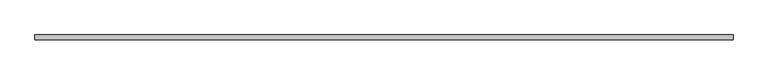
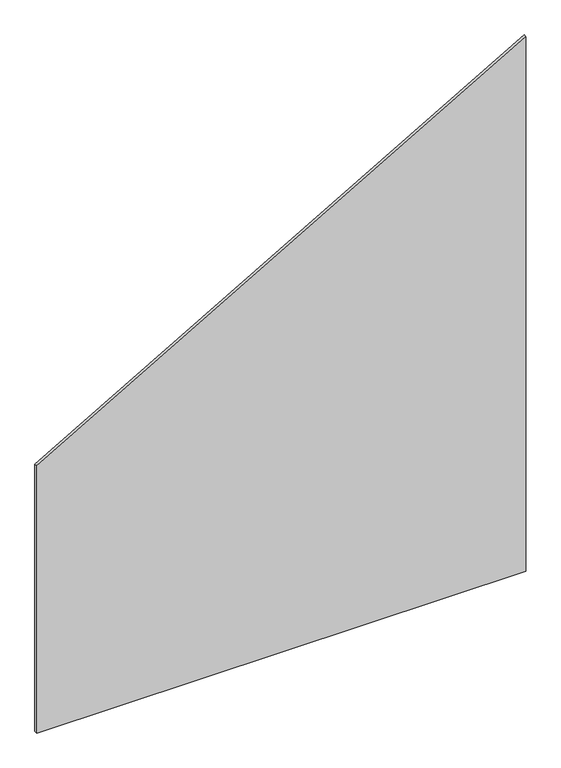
"""IFC4 building model written with IfcOpenShell, lengths in millimetres: plate geometry, 系統嵌板 : 玻璃 1.0cm."""

from ifc_helpers import new_model, si_unit, frame, origin, place, context, project, spatial, polyline, outline, extrude, source, transform, mapped, element, save


def plate_2f3c461f(model_context):
    return source(origin(), model_context, "Body", "SweptSolid", [
        extrude(outline(polyline([(0.0, -750.0), (0.0, 750.0), (1732.0508076, 750.0), (866.0254038, -750.0), (0.0, -750.0)])), frame((0.0, -5.0, 0.0), z_axis=(0.0, 1.0, 0.0), x_axis=(0.0, 0.0, 1.0)), (0.0, 0.0, 1.0), 10.0),
    ])


if __name__ == "__main__":
    model = new_model("IFC4")
    model_context = context("Model", 3, world=origin())
    ifc_project = project(units=[si_unit("LENGTHUNIT", "METRE", prefix="MILLI")], contexts=[model_context])
    site = spatial("IfcSite", under=ifc_project)
    building = spatial("IfcBuilding", under=site)
    placement = place(None, origin())
    plate_shape = plate_2f3c461f(model_context)
    element("IfcPlate", 1, ObjectType="系統嵌板 : 玻璃 1.0cm", at=placement, inside=building, context=model_context, shape_type="MappedRepresentation", body=[
        mapped(plate_shape, transform((0.0, 0.0, 0.0), x_axis=(1.0, 0.0, 0.0), y_axis=(0.0, 1.0, 0.0), z_axis=(0.0, 0.0, 1.0))),
    ])
    save(model, "model.ifc")
